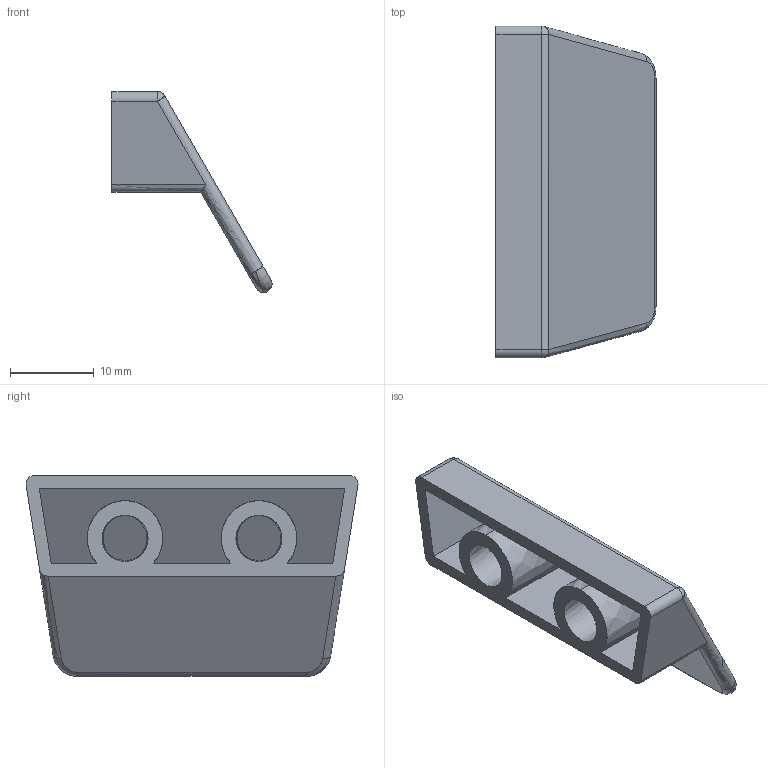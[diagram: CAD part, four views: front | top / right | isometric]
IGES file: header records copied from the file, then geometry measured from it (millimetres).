
Start section: C
Global section: file name: 8198-40.igs; native system: By Siemens PLM Incorporated; preprocessor: XPlus GENERIC/IGES 16.0.42; author: Author; organization: Title; date: 20210331.082007; units: millimetre
Bounding box: 19.12 x 39.66 x 24 mm (x, y, z)
Surface area: 3914.1 mm2 (no closed solid volume)
Topology: 0 solids, 0 shells, 36 faces, 184 edges, 182 vertices
Faces by surface type: bspline 36
